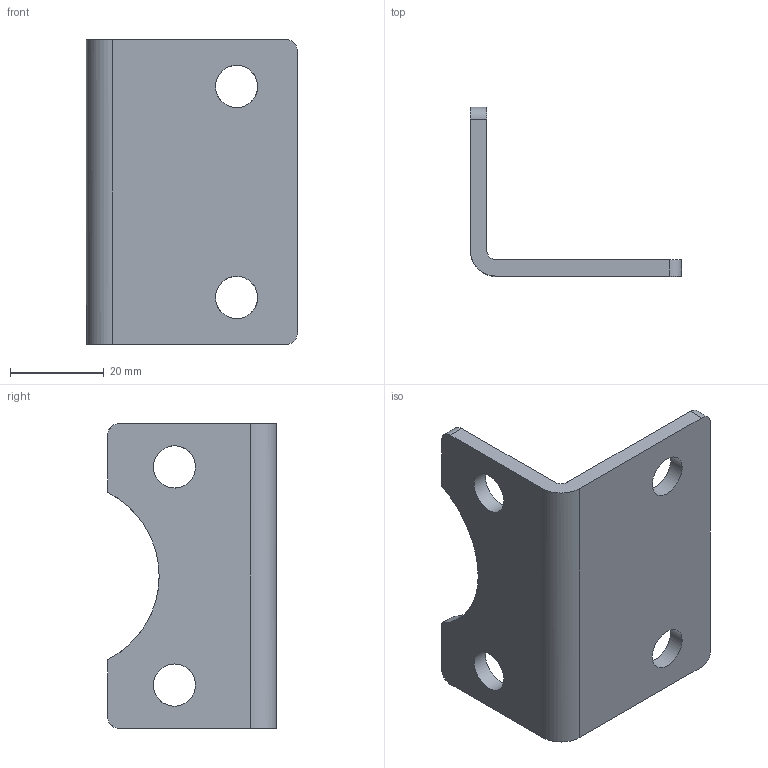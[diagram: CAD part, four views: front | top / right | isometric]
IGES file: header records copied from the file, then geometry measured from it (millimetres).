
Global section: file name: 1325_050_05-1F; native system: Autodesk Inventor 2014; preprocessor: unknown; organization: Pneumax S.p.A.; date: 20161014.140210; units: millimetre
Bounding box: 45 x 36 x 65 mm (x, y, z)
Volume: 15373 mm3; surface area: 10181.2 mm2
Topology: 1 solids, 1 shells, 20 faces, 58 edges, 40 vertices
Faces by surface type: bspline 20
